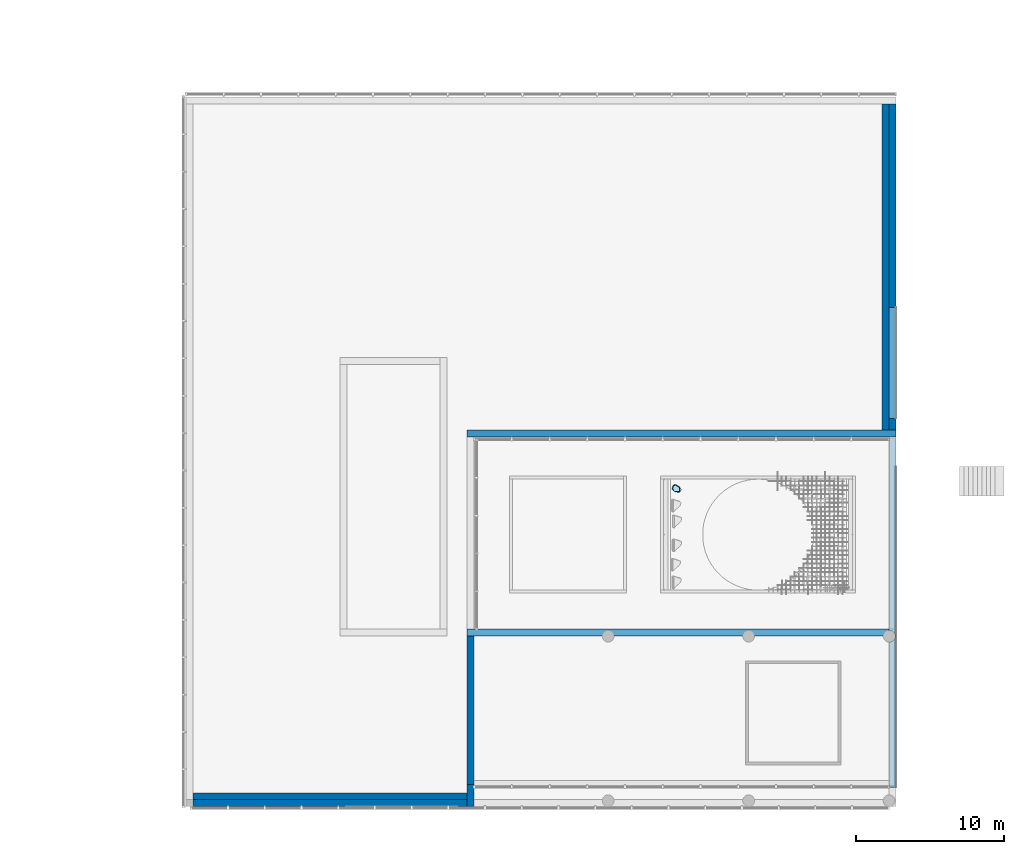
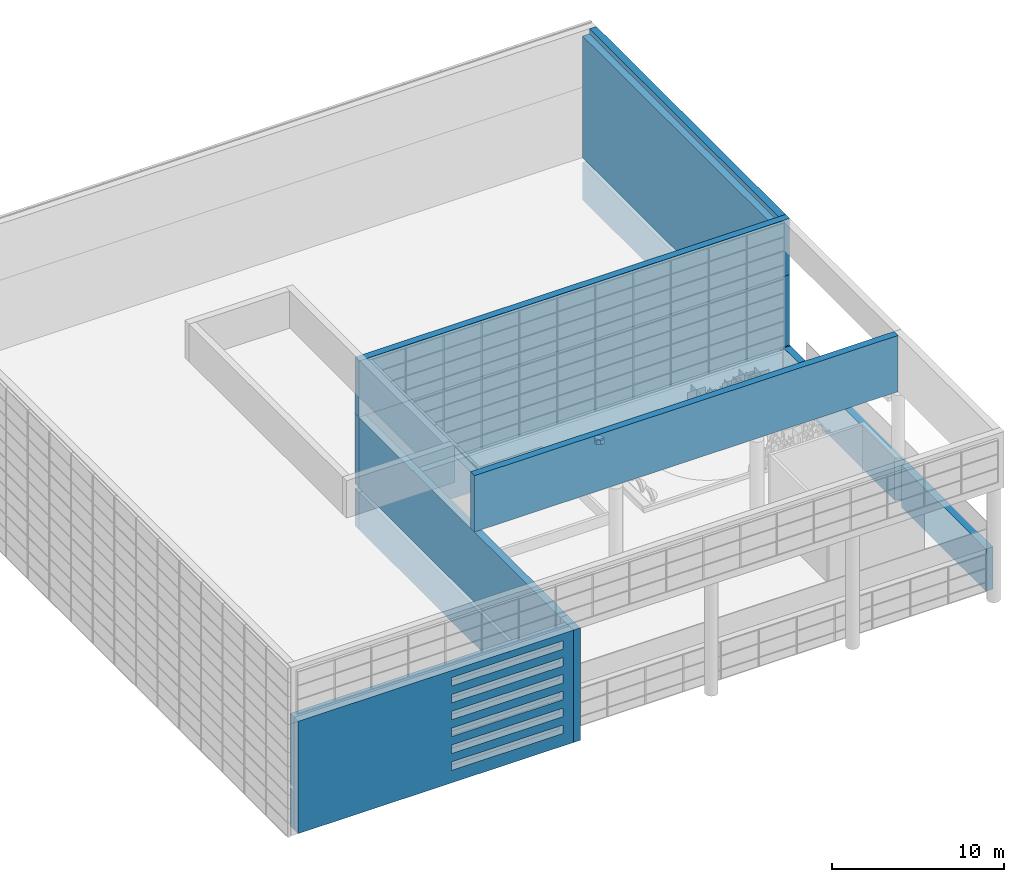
# One storey, part 5 of 105: 10 walls, 1 slab.
"""IFC4 building model written with IfcOpenShell, lengths in millimetres."""

from ifc_helpers import new_model, entity, si_unit, converted_unit, derived_unit, direction, frame, origin_with_axes, place, context, subcontext, project, spatial, triangles, material, element, save


model = new_model("IFC4")

# Units and contexts
model_context = context("Model", 3, precision=1e-05, world=origin_with_axes(), true_north=direction((0.0, 1.0)))
body_context = subcontext(model_context, "Body", "Model", "MODEL_VIEW")
ifc_project = project(units=[si_unit("LENGTHUNIT", "METRE", prefix="MILLI"), si_unit("AREAUNIT", "SQUARE_METRE"), si_unit("VOLUMEUNIT", "CUBIC_METRE"), converted_unit("PLANEANGLEUNIT", "DEGREE", entity("IfcLengthMeasure", 0.017453), si_unit("PLANEANGLEUNIT", "RADIAN"), dimensions=[0, 0, 0, 0, 0, 0, 0]), si_unit("SOLIDANGLEUNIT", "STERADIAN"), si_unit("MASSUNIT", "GRAM"), si_unit("TIMEUNIT", "SECOND"), si_unit("THERMODYNAMICTEMPERATUREUNIT", "DEGREE_CELSIUS"), si_unit("LUMINOUSINTENSITYUNIT", "LUMEN"), si_unit("POWERUNIT", "WATT"), derived_unit("THERMALTRANSMITTANCEUNIT", [(si_unit("POWERUNIT", "WATT"), 1), (si_unit("THERMODYNAMICTEMPERATUREUNIT", "KELVIN"), -1), (si_unit("AREAUNIT", "SQUARE_METRE"), -1)])], contexts=[model_context])

# Site, building, storey
site_placement = place(None, origin_with_axes())
site = spatial("IfcSite", under=ifc_project, at=site_placement, Name="Default Site", CompositionType="ELEMENT")
building_placement = place(site_placement, origin_with_axes())
building = spatial("IfcBuilding", under=site, at=building_placement, Name="Default Building", CompositionType="ELEMENT")
storey_placement = place(building_placement, origin_with_axes())
storey = spatial("IfcBuildingStorey", under=building, at=storey_placement, Name="OG - Story", CompositionType="ELEMENT", Elevation=0.0)

# Slab
ifc_material_1 = material(Name="Default")
slab_placement = place(storey_placement, frame((64895.210678, -31082.437866, 3300.0), z_axis=(0.0, 0.0, 1.0), x_axis=(1.0, 0.0, 0.0)))
element("IfcSlab", 1, at=slab_placement, inside=storey, material=ifc_material_1, Name="Landscape Rock 03", ObjectType="Landscape Rock 03", context=body_context, shape_type="Tessellation", body=[
    triangles([(-238.121, -111.401, 80.011), (-209.43, -100.753, 141.281), (-277.519, -4.303, 115.3), (-232.116, -117.244, 75.884), (-298.41, -6.978, 80.011), (-262.416, -3.496, 149.428), (-253.247, -3.006, 183.433), (-223.376, 147.19, 141.037), (-252.622, 158.839, 81.008), (-252.985, 0.343, 2.161), (-206.921, -79.443, 2.161), (-13.24, -191.265, 2.161), (-27.177, -235.565, 75.884), (-213.271, 142.285, 2.161), (217.796, -211.762, 2.161), (-204.393, 240.769, 79.422), (-175.786, 207.212, 2.161), (-119.235, 289.935, 79.422), (-108.069, 246.309, 2.161), (-196.951, -96.122, 201.462), (-14.86, -212.214, 144.061), (-250.009, -2.833, 217.314), (-210.385, 142.016, 199.97), (-178.809, 218.43, 149.387), (-106.079, 273.915, 118.247), (-10.488, 291.899, 75.371), (-2.276, 280.309, 56.759), (-41.14, 246.309, 2.161), (24.483, 233.96, 56.759), (-22.206, 213.514, 2.161), (15.435, 248.133, 67.068), (-1.652, 270.911, 127.306), (-94.286, 259.555, 176.101), (-171.714, 213.384, 183.413), (154.376, 118.541, 10.198), (146.815, 115.929, 2.161), (155.046, 118.772, 10.91), (207.595, 136.92, 66.757), (280.637, -154.699, 2.161), (250.274, -199.465, 2.161), (214.91, -216.221, 9.796), (187.844, -255.145, 74.815), (214.734, -251.865, 90.462), (201.718, -253.472, 82.933), (226.662, -234.278, 141.536), (-10.222, -203.422, 211.164), (226.705, -234.215, 142.023), (334.738, -74.935, 87.076), (331.381, -79.886, 139.313), (212.478, 133.387, 69.604), (306.717, -34.226, 79.912), (324.08, -65.221, 81.761), (201.211, 121.841, 142.582), (24.974, 223.591, 142.582), (3.873, 257.786, 190.35), (-91.976, 256.742, 233.499), (-169.209, 211.603, 217.315), (-212.545, 142.876, 254.779), (-252.705, -2.977, 251.073), (-199.623, -97.114, 257.706), (-261.333, -3.438, 284.71), (-171.286, 213.08, 250.947), (306.202, -58.562, 137.685), (297.093, -55.169, 222.232), (329.864, -82.122, 208.574), (329.607, -82.5, 221.261), (197.35, 117.573, 217.498), (27.502, 217.087, 254.732), (4.404, 256.524, 228.342), (0.41, 266.012, 292.755), (-99.695, 266.142, 293.251), (-178.225, 218.015, 285.507), (-228.543, 149.249, 309.264), (329.843, -82.152, 234.045), (200.939, 121.54, 291.816), (15.894, 246.954, 365.535), (-9.871, 290.434, 357.246), (305.357, -58.247, 295.074), (331.216, -80.128, 293.616), (321.923, -64.418, 347.443), (334.079, -75.907, 338.584), (227.646, -232.828, 151.867), (223.469, -224.308, 206.583), (-10.622, -204.18, 241.903), (233.049, -224.861, 202.729), (233.328, -224.45, 204.893), (233.438, -224.289, 207.376), (232.084, -226.284, 253.427), (224.503, -226.418, 255.588), (232.012, -226.39, 255.365), (227.646, -232.828, 282.415), (222.683, -240.145, 316.504), (-16.595, -215.503, 305.652), (212.865, -254.62, 354.264), (233.734, -223.851, 411.716), (211.943, -255.979, 358.022), (-216.262, -103.289, 313.612), (-275.893, -4.216, 318.223), (-26.789, -234.732, 358.128), (-26.47, -234.226, 356.735), (207.793, -209.556, 430.623), (310.487, -40.98, 355.778), (212.378, 133.237, 365.856), (296.659, -12.741, 365.856), (207.793, 43.494, 430.623), (-147.877, -178.002, 430.623), (-152.962, -188.919, 412.702), (-230.319, -116.534, 356.735), (-236.279, -110.718, 352.641), (-250.905, 0.447, 430.623), (176.291, 98.058, 430.623), (-21.755, 212.4, 430.623), (83.184, 151.813, 430.623), (-296.387, -5.311, 351.613), (-250.701, 158.074, 351.654), (-205.093, 231.324, 349.214), (-199.473, 236.693, 344.205), (-211.426, 141.552, 430.623), (-210.17, 226.936, 352.982), (-51.013, 244.927, 430.623), (-204.529, 219.365, 369.175), (-183.077, 190.653, 430.623), (-183.62, 244.494, 342.098), (-106.276, 281.463, 333.611), (-49.322, 290.434, 357.246), (-40.534, 244.927, 430.623), (-1.623, 278.835, 375.948), (25.026, 232.676, 375.948)], [[1, 2, 3], [4, 2, 1], [3, 5, 1], [2, 6, 3], [2, 7, 6], [8, 3, 6], [3, 9, 5], [9, 10, 5], [7, 8, 6], [3, 8, 9], [11, 4, 1], [1, 5, 10], [1, 10, 11], [11, 12, 13], [11, 13, 4], [2, 4, 13], [9, 14, 10], [12, 15, 13], [16, 14, 9], [14, 16, 17], [8, 16, 9], [17, 16, 18], [17, 18, 19], [7, 2, 20], [2, 13, 21], [21, 20, 2], [7, 20, 22], [22, 23, 7], [8, 7, 23], [23, 24, 8], [16, 8, 24], [18, 16, 25], [18, 26, 19], [24, 25, 16], [18, 25, 26], [26, 27, 28], [26, 28, 19], [27, 29, 30], [27, 30, 28], [27, 31, 29], [26, 31, 27], [32, 26, 25], [25, 24, 33], [24, 23, 34], [34, 33, 24], [33, 32, 25], [31, 26, 32], [30, 29, 35], [30, 35, 36], [37, 35, 29], [31, 37, 29], [31, 38, 37], [30, 36, 12], [30, 12, 11], [36, 39, 40], [36, 40, 15], [30, 14, 17], [30, 17, 19], [15, 12, 36], [30, 10, 14], [19, 28, 30], [11, 10, 30], [15, 41, 13], [13, 41, 42], [40, 43, 44], [44, 42, 41], [44, 41, 40], [41, 15, 40], [21, 13, 42], [21, 42, 44], [44, 43, 45], [21, 44, 45], [46, 21, 45], [46, 45, 47], [20, 21, 46], [45, 43, 40], [45, 40, 39], [48, 49, 47], [48, 47, 45], [39, 48, 45], [37, 38, 50], [50, 51, 39], [50, 39, 37], [39, 35, 37], [39, 36, 35], [51, 52, 39], [52, 48, 39], [53, 51, 50], [53, 50, 38], [53, 38, 31], [32, 54, 31], [32, 33, 55], [33, 34, 56], [34, 23, 57], [23, 22, 58], [58, 22, 59], [20, 59, 22], [59, 20, 60], [58, 59, 61], [60, 61, 59], [57, 23, 58], [20, 46, 60], [57, 56, 34], [57, 58, 62], [62, 56, 57], [56, 55, 33], [52, 51, 53], [63, 49, 48], [63, 48, 52], [55, 54, 32], [54, 53, 31], [63, 52, 53], [63, 64, 65], [63, 65, 49], [65, 64, 66], [63, 53, 64], [54, 67, 53], [55, 68, 54], [55, 56, 69], [68, 55, 69], [56, 70, 69], [62, 71, 56], [58, 72, 62], [61, 73, 58], [73, 72, 58], [71, 62, 72], [70, 56, 71], [68, 69, 70], [68, 67, 54], [66, 64, 74], [64, 53, 67], [68, 75, 67], [68, 70, 76], [70, 71, 77], [76, 70, 77], [75, 68, 76], [75, 64, 67], [64, 78, 79], [64, 79, 74], [64, 75, 78], [78, 80, 81], [78, 81, 79], [82, 83, 46], [82, 46, 47], [60, 46, 84], [83, 84, 46], [85, 83, 82], [86, 83, 85], [87, 83, 86], [88, 89, 83], [88, 83, 87], [90, 89, 88], [91, 89, 90], [88, 87, 66], [88, 66, 74], [79, 90, 88], [49, 65, 86], [49, 86, 85], [87, 65, 66], [85, 82, 49], [74, 79, 88], [87, 86, 65], [81, 92, 91], [91, 90, 79], [91, 79, 81], [82, 47, 49], [89, 91, 92], [84, 83, 89], [84, 89, 93], [93, 89, 92], [94, 93, 92], [81, 95, 96], [81, 96, 94], [94, 92, 81], [60, 84, 93], [97, 61, 60], [98, 73, 61], [61, 97, 98], [93, 97, 60], [96, 99, 100], [100, 93, 94], [100, 94, 96], [93, 100, 97], [81, 80, 95], [101, 95, 80], [101, 80, 102], [75, 102, 80], [75, 80, 78], [75, 103, 104], [75, 104, 102], [104, 105, 101], [104, 101, 102], [101, 106, 107], [101, 107, 99], [99, 96, 95], [99, 95, 101], [97, 100, 99], [97, 99, 107], [107, 108, 97], [97, 108, 109], [110, 109, 108], [108, 107, 106], [108, 106, 110], [103, 111, 105], [103, 105, 104], [75, 76, 103], [76, 112, 113], [113, 111, 103], [113, 103, 76], [97, 109, 98], [114, 98, 109], [73, 98, 115], [98, 114, 115], [73, 116, 72], [116, 117, 72], [114, 109, 110], [114, 110, 118], [114, 118, 115], [73, 115, 119], [73, 119, 116], [120, 116, 119], [120, 119, 121], [121, 122, 120], [118, 121, 119], [118, 119, 115], [118, 122, 121], [116, 120, 117], [72, 117, 71], [117, 123, 71], [71, 123, 124], [120, 125, 124], [120, 124, 123], [123, 117, 120], [71, 124, 125], [71, 125, 77], [112, 126, 120], [106, 101, 105], [106, 105, 111], [120, 122, 118], [120, 118, 112], [111, 113, 106], [113, 112, 110], [113, 110, 106], [118, 110, 112], [125, 120, 126], [125, 126, 127], [127, 77, 125], [127, 126, 112], [127, 112, 128], [128, 112, 76], [128, 76, 127], [76, 77, 127]], closed=False),
])

# Walls
ifc_material_2 = material(Name="Bauteil")
wall_1_placement = place(storey_placement, frame((79751.391327, -40589.262838, 8000.0), z_axis=(0.0, 0.0, 1.0), x_axis=(-1.0, 0.0, 0.0)))
element("IfcWall", 2, at=wall_1_placement, inside=storey, material=ifc_material_2, Name="Wand-006", PredefinedType="NOTDEFINED", context=body_context, shape_type="Tessellation", body=[
    triangles([(29000.0, 470.0, 4000.0), (470.0, 470.0, 4000.0), (470.0, 0.0, 4000.0), (29000.0, 0.0, 4000.0), (470.0, 470.0, 0.0), (29000.0, 470.0, 0.0), (470.0, 0.0, 0.0), (470.0, 0.0, 2000.0), (29000.0, 0.0, 0.0)], [[1, 2, 3], [1, 3, 4], [5, 2, 1], [5, 1, 6], [7, 3, 2], [7, 2, 5], [4, 3, 8], [4, 8, 7], [4, 7, 9], [6, 1, 4], [6, 4, 9], [9, 7, 5], [9, 5, 6]], closed=False),
])
wall_2_placement = place(storey_placement, frame((79751.391327, -27589.262838, 8000.0), z_axis=(0.0, 0.0, 1.0), x_axis=(-1.0, 0.0, 0.0)))
element("IfcWall", 3, at=wall_2_placement, inside=storey, material=ifc_material_2, Name="Wand-006", PredefinedType="NOTDEFINED", context=body_context, shape_type="Tessellation", body=[
    triangles([(29000.0, -469.999, 4000.0), (29000.0, 0.0, 4000.0), (0.0, 0.0, 4000.0), (0.0, -469.999, 4000.0), (29000.0, 0.0, 0.0), (29000.0, -469.999, 0.0), (0.0, 0.0, 0.0), (0.0, 0.0, 2000.0), (0.0, -469.999, 2000.0), (0.0, -469.999, 0.0)], [[1, 2, 3], [1, 3, 4], [5, 2, 1], [5, 1, 6], [5, 7, 8], [5, 8, 3], [5, 3, 2], [3, 8, 9], [3, 9, 4], [6, 1, 4], [6, 4, 9], [6, 9, 10], [5, 6, 10], [5, 10, 7], [7, 10, 9], [7, 9, 8]], closed=False),
])
wall_3_placement = place(storey_placement, frame((51221.391327, -52589.262838, 0.0), z_axis=(0.0, 0.0, 1.0), x_axis=(0.0, 1.0, 0.0)))
element("IfcWall", 4, at=wall_3_placement, inside=storey, material=ifc_material_2, Name="Wand-016", PredefinedType="NOTDEFINED", context=body_context, shape_type="Tessellation", body=[
    triangles([(0.0, 0.0, 8000.0), (0.0, 0.0, 3000.0), (1300.0, 0.0, 3000.0), (1500.0, 0.0, 3000.0), (1500.0, 0.0, 8000.0), (0.0, 0.0, 0.0), (0.0, 470.0, 8000.0), (0.0, 470.0, 0.0), (11.626, 470.0, 3000.0), (1500.0, 470.0, 3000.0), (1500.0, 470.0, 8000.0), (1500.0, 0.0, 2650.0), (0.0, 0.0, 2650.0), (1500.0, 0.0, 0.0), (11.626, 470.0, 2650.0), (1500.0, 470.0, 2650.0), (1500.0, 470.0, 0.0)], [[1, 2, 3], [1, 3, 4], [1, 4, 5], [6, 1, 7], [6, 7, 8], [9, 10, 4], [9, 4, 3], [9, 3, 2], [5, 4, 10], [5, 10, 11], [7, 1, 5], [7, 5, 11], [12, 13, 6], [12, 6, 14], [9, 2, 13], [9, 13, 15], [10, 11, 9], [9, 11, 7], [9, 7, 15], [15, 7, 8], [15, 8, 16], [16, 8, 17], [6, 8, 17], [6, 17, 14], [13, 12, 16], [13, 16, 15], [17, 16, 12], [17, 12, 14]], closed=False),
])
wall_4_placement = place(storey_placement, frame((50751.391327, -27589.262838, 0.0), z_axis=(0.0, 0.0, 1.0), x_axis=(0.0, -1.0, 0.0)))
element("IfcWall", 5, at=wall_4_placement, inside=storey, material=ifc_material_2, Name="Wand-007", PredefinedType="NOTDEFINED", context=body_context, shape_type="Tessellation", body=[
    triangles([(0.0, 0.0, 0.0), (0.0, 0.0, 2650.0), (0.0, 470.0, 2650.0), (0.0, 470.0, 0.0), (23500.0, 0.0, 0.0), (23500.0, 0.0, 2650.0), (23500.0, 470.0, 2650.0), (23500.0, 470.0, 0.0)], [[1, 2, 3], [1, 3, 4], [5, 6, 2], [5, 2, 1], [6, 7, 3], [6, 3, 2], [4, 3, 7], [4, 7, 8], [1, 4, 8], [1, 8, 5], [8, 7, 6], [8, 6, 5]], closed=False),
    triangles([(23500.0, 470.0, 8000.0), (23500.0, 470.0, 3000.0), (0.0, 470.0, 3000.0), (0.0, 470.0, 8000.0), (23500.0, 0.0, 8000.0), (23500.0, 0.0, 3000.0), (0.0, 0.0, 3000.0), (0.0, 0.0, 8000.0)], [[1, 2, 3], [1, 3, 4], [5, 6, 2], [5, 2, 1], [6, 7, 3], [6, 3, 2], [4, 3, 7], [4, 7, 8], [4, 8, 5], [4, 5, 1], [8, 7, 6], [8, 6, 5]], closed=False),
])
wall_5_placement = place(storey_placement, frame((79751.391327, -51289.262838, 0.0), z_axis=(0.0, 0.0, 1.0), x_axis=(0.0, 1.0, 0.0)))
element("IfcWall", 6, at=wall_5_placement, inside=storey, material=ifc_material_2, Name="Wand-005", PredefinedType="NOTDEFINED", context=body_context, shape_type="Tessellation", body=[
    triangles([(23600.0, 0.0, 3000.0), (0.0, 0.0, 3000.0), (10230.0, 70.0, 3000.0), (10282.21, 73.422, 3000.0), (10333.528, 83.63, 3000.0), (10383.073, 100.448, 3000.0), (10430.0, 123.59, 3000.0), (10473.505, 152.659, 3000.0), (10512.843, 187.157, 3000.0), (10547.341, 226.495, 3000.0), (10576.41, 270.0, 3000.0), (10599.552, 316.927, 3000.0), (10616.37, 366.472, 3000.0), (10626.578, 417.79, 3000.0), (10630.0, 470.0, 3000.0), (23600.0, 470.0, 3000.0), (0.0, 470.0, 3000.0), (9830.0, 470.0, 3000.0), (9833.422, 417.79, 3000.0), (9843.63, 366.472, 3000.0), (9860.448, 316.927, 3000.0), (9883.59, 270.0, 3000.0), (9912.659, 226.495, 3000.0), (9947.157, 187.157, 3000.0), (9986.495, 152.659, 3000.0), (10030.0, 123.59, 3000.0), (10076.927, 100.448, 3000.0), (10126.472, 83.63, 3000.0), (10177.79, 73.422, 3000.0), (10333.528, 83.63, 0.0), (10383.073, 100.448, 0.0), (10282.21, 73.422, 0.0), (10230.0, 70.0, 0.0), (10177.79, 73.422, 0.0), (10126.472, 83.63, 0.0), (10076.927, 100.448, 0.0), (10030.0, 123.59, 0.0), (9986.495, 152.659, 0.0), (9947.157, 187.157, 0.0), (9912.659, 226.495, 0.0), (9883.59, 270.0, 0.0), (9860.448, 316.927, 0.0), (9843.63, 366.472, 0.0), (9833.422, 417.79, 0.0), (9830.0, 470.0, 0.0), (0.0, 470.0, 0.0), (0.0, 0.0, 0.0), (23600.0, 0.0, 0.0), (23600.0, 470.0, 0.0), (10630.0, 470.0, 0.0), (10626.578, 417.79, 0.0), (10616.37, 366.472, 0.0), (10599.552, 316.927, 0.0), (10576.41, 270.0, 0.0), (10547.341, 226.495, 0.0), (10512.843, 187.157, 0.0), (10473.505, 152.659, 0.0), (10430.0, 123.59, 0.0)], [[1, 2, 3], [1, 3, 4], [1, 4, 5], [1, 5, 6], [1, 6, 7], [1, 7, 8], [1, 8, 9], [1, 9, 10], [1, 10, 11], [1, 11, 12], [1, 12, 13], [1, 13, 14], [1, 14, 15], [1, 15, 16], [2, 17, 18], [2, 18, 19], [2, 19, 20], [2, 20, 21], [2, 21, 22], [2, 22, 23], [2, 23, 24], [2, 24, 25], [2, 25, 26], [2, 26, 27], [2, 27, 28], [2, 28, 29], [2, 29, 3], [30, 5, 6], [30, 6, 31], [32, 4, 5], [32, 5, 30], [33, 3, 4], [33, 4, 32], [34, 29, 3], [34, 3, 33], [35, 28, 29], [35, 29, 34], [36, 27, 28], [36, 28, 35], [37, 26, 27], [37, 27, 36], [38, 25, 26], [38, 26, 37], [39, 24, 25], [39, 25, 38], [40, 23, 24], [40, 24, 39], [41, 22, 23], [41, 23, 40], [42, 21, 22], [42, 22, 41], [43, 20, 21], [43, 21, 42], [44, 19, 20], [44, 20, 43], [45, 18, 19], [45, 19, 44], [17, 18, 45], [17, 45, 46], [47, 2, 17], [47, 17, 46], [2, 47, 48], [2, 48, 1], [48, 49, 16], [48, 16, 1], [49, 50, 15], [49, 15, 16], [51, 14, 15], [51, 15, 50], [52, 13, 14], [52, 14, 51], [53, 12, 13], [53, 13, 52], [54, 11, 12], [54, 12, 53], [55, 10, 11], [55, 11, 54], [56, 9, 10], [56, 10, 55], [57, 8, 9], [57, 9, 56], [58, 7, 8], [58, 8, 57], [31, 6, 7], [31, 7, 58], [48, 49, 50], [48, 50, 51], [48, 51, 52], [48, 52, 53], [48, 53, 54], [48, 54, 55], [48, 55, 56], [48, 56, 57], [48, 57, 58], [48, 58, 31], [48, 31, 30], [48, 30, 32], [48, 32, 33], [48, 33, 47], [46, 47, 33], [46, 33, 34], [46, 34, 35], [46, 35, 36], [46, 36, 37], [46, 37, 38], [46, 38, 39], [46, 39, 40], [46, 40, 41], [46, 41, 42], [46, 42, 43], [46, 43, 44], [46, 44, 45]], closed=False),
])
wall_6_placement = place(storey_placement, frame((79751.391327, -27589.262838, 0.0), z_axis=(0.0, 0.0, 1.0), x_axis=(-1.0, 0.0, 0.0)))
element("IfcWall", 7, at=wall_6_placement, inside=storey, material=ifc_material_2, Name="Wand-006", PredefinedType="NOTDEFINED", context=body_context, shape_type="Tessellation", body=[
    triangles([(29000.0, -469.999, 0.0), (29000.0, -469.999, 2650.0), (470.0, -469.999, 2650.0), (470.0, -469.999, 0.0), (29000.0, 0.0, 0.0), (29000.0, 0.0, 2650.0), (470.0, 0.0, 2650.0), (470.0, 0.0, 0.0)], [[1, 2, 3], [1, 3, 4], [5, 6, 2], [5, 2, 1], [6, 7, 3], [6, 3, 2], [4, 3, 7], [4, 7, 8], [5, 1, 4], [5, 4, 8], [8, 7, 6], [8, 6, 5]], closed=False),
    triangles([(0.0, 0.0, 3000.0), (29000.0, 0.0, 3000.0), (29000.0, -469.999, 3000.0), (0.0, -469.999, 3000.0), (29000.0, 0.0, 8000.0), (0.0, 0.0, 8000.0), (29000.0, -469.999, 8000.0), (0.0, -469.999, 8000.0)], [[1, 2, 3], [1, 3, 4], [5, 2, 1], [5, 1, 6], [7, 3, 2], [7, 2, 5], [4, 3, 7], [4, 7, 8], [8, 6, 1], [8, 1, 4], [8, 7, 5], [8, 5, 6]], closed=False),
])
wall_7_placement = place(storey_placement, frame((79751.391327, -27589.262838, 0.0), z_axis=(0.0, 0.0, 1.0), x_axis=(0.0, 1.0, 0.0)))
element("IfcWall", 8, at=wall_7_placement, inside=storey, material=ifc_material_2, Name="Wand-002", PredefinedType="NOTDEFINED", context=body_context, shape_type="Tessellation", body=[
    triangles([(-99.999, 0.0, 3000.0), (-99.999, 470.0, 3000.0), (-99.999, 470.0, 0.0), (-99.999, 0.0, 0.0), (470.0, 0.0, 3000.0), (470.0, 470.0, 3000.0), (470.0, 470.0, 6125.481), (470.0, 0.0, 6125.481), (470.0, 0.0, 12000.0), (470.0, 470.0, 12000.0), (15643.715, 0.0, 12000.0), (22530.0, 470.0, 12000.0), (578.715, 470.0, 12000.0), (22530.0, 0.0, 12000.0), (22530.0, 0.0, 6125.481), (22530.0, 0.0, 0.0), (22530.0, 470.0, 0.0), (22530.0, 470.0, 6125.481), (578.715, 470.0, 0.0), (15643.715, 0.0, 0.0), (15643.715, 0.0, 6125.481), (8757.429, 0.0, 7625.481), (8757.429, 0.0, 7025.481), (8757.429, 0.0, 6425.481), (1257.429, 0.0, 7625.481), (1257.429, 0.0, 7025.481), (1257.429, 0.0, 6425.481), (8757.429, 0.0, 8825.481), (8757.429, 0.0, 8225.481), (1257.429, 0.0, 8825.481), (1257.429, 0.0, 8225.481), (8757.429, 0.0, 9425.481), (1257.429, 0.0, 9425.481), (8757.429, 0.0, 4025.481), (1257.429, 0.0, 4025.481), (8757.429, 0.0, 5225.481), (8757.429, 0.0, 4625.481), (1257.429, 0.0, 5225.481), (1257.429, 0.0, 4625.481), (8757.429, 0.0, 5825.481), (1257.429, 0.0, 5825.481), (578.715, 470.0, 6125.481), (1257.429, 470.0, 6425.481), (8757.429, 470.0, 6425.481), (1257.429, 470.0, 7625.481), (1257.429, 470.0, 7025.481), (8757.429, 470.0, 7025.481), (8757.429, 470.0, 7625.481), (1257.429, 470.0, 8825.481), (1257.429, 470.0, 8225.481), (8757.429, 470.0, 8225.481), (8757.429, 470.0, 8825.481), (1257.429, 470.0, 9425.481), (8757.429, 470.0, 9425.481), (8757.429, 470.0, 4025.481), (8757.429, 470.0, 4625.481), (8757.429, 470.0, 5225.481), (1257.429, 470.0, 5225.481), (1257.429, 470.0, 4025.481), (1257.429, 470.0, 5825.481), (1257.429, 470.0, 4625.481), (8757.429, 470.0, 5825.481)], [[1, 2, 3], [1, 3, 4], [5, 6, 2], [5, 2, 1], [7, 6, 5], [7, 5, 8], [8, 9, 10], [8, 10, 7], [9, 11, 12], [9, 12, 13], [13, 10, 9], [11, 14, 12], [15, 16, 17], [15, 17, 18], [18, 12, 14], [18, 14, 15], [4, 3, 19], [17, 16, 20], [19, 17, 20], [19, 20, 4], [21, 22, 23], [23, 24, 21], [22, 25, 26], [22, 26, 23], [8, 27, 26], [26, 25, 8], [21, 28, 29], [29, 22, 21], [28, 30, 31], [28, 31, 29], [8, 25, 31], [31, 30, 8], [21, 11, 32], [21, 32, 28], [11, 9, 33], [11, 33, 32], [9, 8, 30], [9, 30, 33], [20, 34, 35], [20, 35, 5], [5, 4, 20], [20, 36, 37], [37, 34, 20], [36, 38, 39], [36, 39, 37], [20, 21, 40], [20, 40, 36], [8, 39, 38], [21, 8, 41], [21, 41, 40], [8, 5, 35], [8, 35, 39], [38, 41, 8], [5, 1, 4], [24, 27, 8], [24, 8, 21], [20, 16, 15], [20, 15, 21], [21, 15, 14], [21, 14, 11], [18, 42, 43], [18, 43, 44], [42, 45, 46], [46, 43, 42], [12, 47, 48], [45, 48, 47], [45, 47, 46], [44, 47, 12], [44, 12, 18], [42, 49, 50], [50, 45, 42], [12, 51, 52], [49, 52, 51], [49, 51, 50], [48, 51, 12], [42, 13, 53], [42, 53, 49], [13, 12, 54], [13, 54, 53], [17, 55, 56], [56, 57, 17], [56, 58, 57], [17, 19, 59], [17, 59, 55], [42, 60, 58], [19, 42, 61], [19, 61, 59], [58, 61, 42], [58, 56, 61], [42, 18, 62], [42, 62, 60], [19, 3, 2], [19, 2, 6], [10, 13, 42], [10, 42, 7], [6, 7, 42], [6, 42, 19], [57, 62, 18], [57, 18, 17], [52, 54, 12], [46, 47, 23], [46, 23, 26], [47, 44, 24], [47, 24, 23], [43, 46, 26], [43, 26, 27], [44, 43, 27], [44, 27, 24], [60, 62, 40], [60, 40, 41], [62, 57, 36], [62, 36, 40], [58, 60, 41], [58, 41, 38], [57, 58, 38], [57, 38, 36], [61, 56, 37], [61, 37, 39], [56, 55, 34], [56, 34, 37], [59, 61, 39], [59, 39, 35], [55, 59, 35], [55, 35, 34], [50, 51, 29], [50, 29, 31], [51, 48, 22], [51, 22, 29], [45, 50, 31], [45, 31, 25], [48, 45, 25], [48, 25, 22], [53, 54, 32], [53, 32, 33], [54, 52, 28], [54, 28, 32], [49, 53, 33], [49, 33, 30], [52, 49, 30], [52, 30, 28]], closed=False),
])
wall_8_placement = place(storey_placement, frame((50751.391327, -52589.262838, 0.0), z_axis=(0.0, 0.0, 1.0), x_axis=(-1.0, 0.0, 0.0)))
element("IfcWall", 9, at=wall_8_placement, inside=storey, material=ifc_material_2, Name="Wand-018", PredefinedType="NOTDEFINED", context=body_context, shape_type="Tessellation", body=[
    triangles([(8190.236, -214.226, 2650.0), (8190.236, -469.999, 2650.0), (18530.0, -469.999, 2650.0), (8190.236, -469.999, 2093.653), (8190.236, -469.999, 1493.653), (690.236, -469.999, 2093.653), (690.236, -469.999, 1493.653), (0.0, -469.999, 0.0), (690.236, -469.999, 893.653), (18530.0, -469.999, 0.0), (8190.236, -469.999, 893.653), (690.236, -469.999, 2650.0), (0.0, -469.999, 2650.0), (690.236, -28.7, 2650.0), (0.0, -11.625, 2650.0), (0.0, -11.625, 3000.0), (690.236, -28.7, 2693.653), (8190.236, -214.226, 2693.653), (18530.0, -469.999, 3000.0), (0.0, 0.0, 0.0), (13360.118, 0.0, 0.0), (18530.0, 0.0, 0.0), (13360.118, 0.0, 446.827), (0.0, 0.0, 446.827), (690.236, 0.0, 893.653), (8190.236, 0.0, 893.653), (0.0, 0.0, 1793.653), (690.236, 0.0, 1493.653), (8190.236, 0.0, 1493.653), (13360.118, 0.0, 1793.653), (690.236, 0.0, 2093.653), (8190.236, 0.0, 2093.653), (0.0, 0.0, 2993.653), (690.236, 0.0, 2693.653), (13360.118, 0.0, 2993.653), (8190.236, 0.0, 2693.653), (690.236, 0.0, 3293.653), (8190.236, 0.0, 3293.653), (0.0, 0.0, 4193.653), (690.236, 0.0, 3893.653), (8190.236, 0.0, 3893.653), (13360.118, 0.0, 4193.653), (690.236, 0.0, 4493.653), (8190.236, 0.0, 4493.653), (0.0, 0.0, 5393.653), (690.236, 0.0, 5093.653), (8190.236, 0.0, 5093.653), (13360.118, 0.0, 5393.653), (690.236, 0.0, 5693.653), (8190.236, 0.0, 5693.653), (0.0, 0.0, 6593.653), (690.236, 0.0, 6293.653), (8190.236, 0.0, 6293.653), (13360.118, 0.0, 6593.653), (690.236, 0.0, 6893.653), (8190.236, 0.0, 6893.653), (0.0, 0.0, 8000.0), (690.236, 0.0, 7493.653), (8190.236, 0.0, 7493.653), (13360.118, 0.0, 8000.0), (18530.0, 0.0, 8000.0), (18530.0, 0.0, 6593.653), (18530.0, 0.0, 5393.653), (18530.0, 0.0, 4193.653), (18530.0, 0.0, 2993.653), (18530.0, 0.0, 1793.653), (18530.0, 0.0, 446.827), (0.0, -469.999, 3000.0), (0.0, -469.999, 8000.0), (18530.0, -469.999, 8000.0), (690.236, -469.999, 6293.653), (690.236, -469.999, 6893.653), (690.236, -469.999, 7493.653), (8190.236, -469.999, 6293.653), (8190.236, -469.999, 6893.653), (690.236, -469.999, 5093.653), (690.236, -469.999, 5693.653), (8190.236, -469.999, 5093.653), (8190.236, -469.999, 5693.653), (690.236, -469.999, 3893.653), (690.236, -469.999, 4493.653), (8190.236, -469.999, 3893.653), (8190.236, -469.999, 4493.653), (690.236, -469.999, 3293.653), (8190.236, -469.999, 3293.653), (8190.236, -469.999, 7493.653)], [[1, 2, 3], [3, 2, 4], [4, 5, 3], [4, 6, 7], [4, 7, 5], [8, 9, 7], [7, 6, 8], [8, 10, 11], [8, 11, 9], [5, 11, 10], [5, 10, 3], [6, 12, 13], [6, 13, 8], [14, 15, 13], [14, 13, 12], [16, 15, 14], [16, 14, 17], [17, 18, 19], [17, 19, 16], [18, 1, 3], [18, 3, 19], [10, 8, 20], [10, 20, 21], [21, 22, 10], [23, 24, 25], [23, 25, 26], [24, 27, 28], [24, 28, 25], [26, 29, 30], [26, 30, 23], [30, 27, 31], [30, 31, 32], [27, 33, 34], [27, 34, 31], [33, 35, 36], [33, 36, 34], [35, 33, 37], [35, 37, 38], [33, 39, 40], [33, 40, 37], [38, 41, 42], [38, 42, 35], [42, 39, 43], [42, 43, 44], [39, 45, 46], [39, 46, 43], [44, 47, 48], [44, 48, 42], [48, 45, 49], [48, 49, 50], [45, 51, 52], [45, 52, 49], [50, 53, 54], [50, 54, 48], [54, 51, 55], [54, 55, 56], [51, 57, 58], [51, 58, 55], [56, 59, 60], [56, 60, 54], [59, 58, 57], [59, 57, 60], [60, 61, 62], [60, 62, 54], [53, 52, 51], [53, 51, 54], [54, 62, 63], [54, 63, 48], [47, 46, 45], [47, 45, 48], [48, 63, 64], [48, 64, 42], [41, 40, 39], [41, 39, 42], [42, 64, 65], [42, 65, 35], [32, 36, 35], [32, 35, 30], [35, 65, 66], [35, 66, 30], [29, 28, 27], [29, 27, 30], [30, 66, 67], [30, 67, 23], [24, 23, 21], [24, 21, 20], [23, 67, 22], [23, 22, 21], [68, 69, 51], [68, 51, 45], [69, 57, 51], [16, 39, 33], [13, 15, 27], [33, 27, 15], [33, 15, 16], [27, 24, 8], [27, 8, 13], [24, 20, 8], [45, 39, 16], [45, 16, 68], [70, 19, 63], [70, 63, 62], [3, 10, 67], [3, 67, 66], [19, 64, 63], [10, 22, 67], [19, 3, 65], [19, 65, 64], [62, 61, 70], [66, 65, 3], [70, 61, 60], [60, 57, 69], [60, 69, 70], [69, 71, 72], [72, 73, 69], [71, 74, 75], [71, 75, 72], [69, 76, 77], [77, 71, 69], [76, 78, 79], [76, 79, 77], [69, 80, 81], [81, 76, 69], [80, 82, 83], [80, 83, 81], [69, 68, 84], [69, 84, 80], [68, 19, 85], [68, 85, 84], [19, 75, 74], [73, 86, 70], [73, 70, 69], [19, 79, 78], [86, 75, 19], [86, 19, 70], [19, 83, 82], [74, 79, 19], [78, 83, 19], [82, 85, 19], [16, 19, 68]], closed=False),
])
wall_9_placement = place(storey_placement, frame((31751.391327, -52119.262838, 0.0), z_axis=(0.0, 0.0, 1.0), x_axis=(1.0, 0.0, 0.0)))
element("IfcWall", 10, at=wall_9_placement, inside=storey, material=ifc_material_2, Name="Wand-021", PredefinedType="NOTDEFINED", context=body_context, shape_type="Tessellation", body=[
    triangles([(470.0, 470.0, 0.0), (470.0, 470.0, 2650.0), (19000.0, 470.0, 2650.0), (19000.0, 470.0, 0.0), (470.0, 0.0, 0.0), (470.0, 0.0, 2650.0), (19000.0, 0.0, 2650.0), (19000.0, 0.0, 0.0)], [[1, 2, 3], [1, 3, 4], [5, 6, 2], [5, 2, 1], [6, 7, 3], [6, 3, 2], [4, 3, 7], [4, 7, 8], [1, 4, 8], [1, 8, 5], [8, 7, 6], [8, 6, 5]], closed=False),
    triangles([(19000.0, 0.0, 8000.0), (19000.0, 0.0, 3000.0), (19000.0, 470.0, 3000.0), (19000.0, 470.0, 8000.0), (470.0, 0.0, 8000.0), (470.0, 0.0, 3000.0), (470.0, 470.0, 3000.0), (470.0, 470.0, 8000.0)], [[1, 2, 3], [1, 3, 4], [5, 6, 2], [5, 2, 1], [6, 7, 3], [6, 3, 2], [4, 3, 7], [4, 7, 8], [5, 1, 4], [5, 4, 8], [8, 7, 6], [8, 6, 5]], closed=False),
])
wall_10_placement = place(storey_placement, frame((79281.391327, -4589.262838, 0.0), z_axis=(0.0, 0.0, 1.0), x_axis=(0.0, -1.0, 0.0)))
element("IfcWall", 11, at=wall_10_placement, inside=storey, material=ifc_material_2, Name="Wand-022", PredefinedType="NOTDEFINED", context=body_context, shape_type="Tessellation", body=[
    triangles([(470.0, -469.999, 0.0), (470.0, -469.999, 2650.0), (470.0, 0.0, 2650.0), (470.0, 0.0, 0.0), (22530.0, -469.999, 0.0), (22530.0, -469.999, 2650.0), (22530.0, 0.0, 2650.0), (22530.0, 0.0, 0.0)], [[1, 2, 3], [1, 3, 4], [5, 6, 2], [5, 2, 1], [6, 7, 3], [6, 3, 2], [4, 3, 7], [4, 7, 8], [1, 4, 8], [1, 8, 5], [8, 7, 6], [8, 6, 5]], closed=False),
    triangles([(22530.0, 0.0, 11650.0), (22530.0, 0.0, 3000.0), (470.0, 0.0, 3000.0), (470.0, 0.0, 11650.0), (22530.0, -469.999, 11650.0), (22530.0, -469.999, 3000.0), (470.0, -469.999, 3000.0), (470.0, -469.999, 11650.0)], [[1, 2, 3], [1, 3, 4], [5, 6, 2], [5, 2, 1], [6, 7, 3], [6, 3, 2], [4, 3, 7], [4, 7, 8], [5, 1, 4], [5, 4, 8], [8, 7, 6], [8, 6, 5]], closed=False),
])

save(model, "model.ifc")
